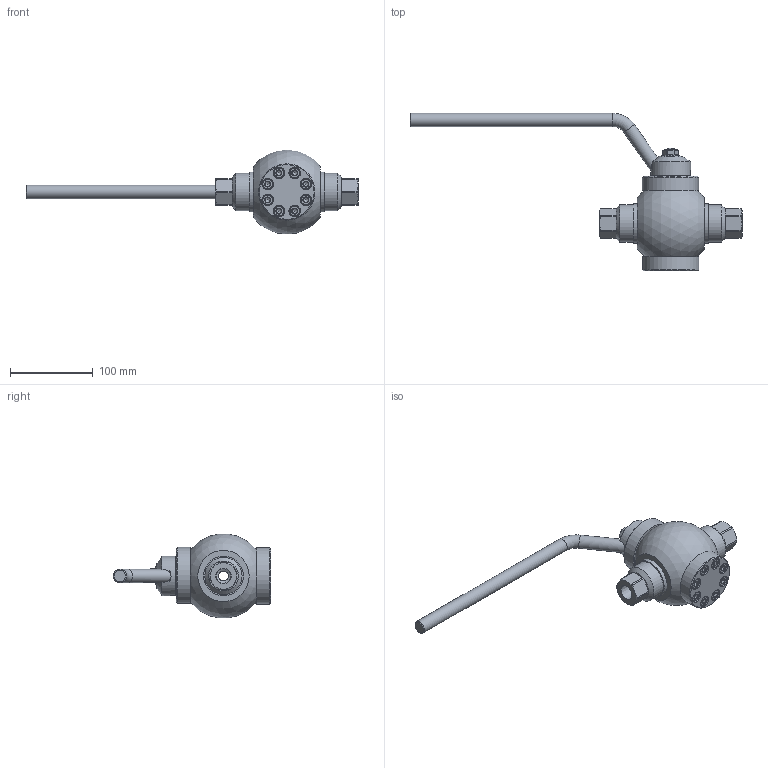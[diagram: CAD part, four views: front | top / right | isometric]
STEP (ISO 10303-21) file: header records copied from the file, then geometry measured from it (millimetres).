
FILE_DESCRIPTION(('STEP AP203'), '1');
FILE_NAME('ZARD 015.320.10.P.stp', '2013-12-05T09:15:09', ('Øèøêî'), ('ÎÎÎ ÈÊ Ýíåðïðåä-ßðäîñ'), 'ASCON STEP Converter 1.3', 'Kompas 3D', '');
FILE_SCHEMA(('CONFIG_CONTROL_DESIGN','SUPPORT_RESOURCE_SCHEMA'));
Length unit declared in the file: millimetre
Products named in the file (1): 86
Bounding box: 401.01 x 190 x 101.26 mm (x, y, z)
Volume: 739794.2 mm3; surface area: 122295.7 mm2
Topology: 1 solids, 17 shells, 810 faces, 1866 edges, 1146 vertices
Faces by surface type: plane 472, cylinder 227, cone 102, torus 8, sphere 1
Full cylindrical faces by diameter (mm): 6 x17, 6.647 x16, 8 x16, 9 x16, 10 x2, 12 x3, 13 x16, 14 x16, 14.5 x1, 16 x3, 16.2 x1, 18 x1, 20 x4, 21.8 x1, 22 x4, 26 x1, 26.5 x1, 35 x2, 45 x2, 48 x3, 68 x2
Entity records: 27213 total; most frequent: CARTESIAN_POINT 8701, DIRECTION 4010, ORIENTED_EDGE 3700, EDGE_CURVE 1850, AXIS2_PLACEMENT_3D 1597, VERTEX_POINT 1146, EDGE_LOOP 934, LINE 816
